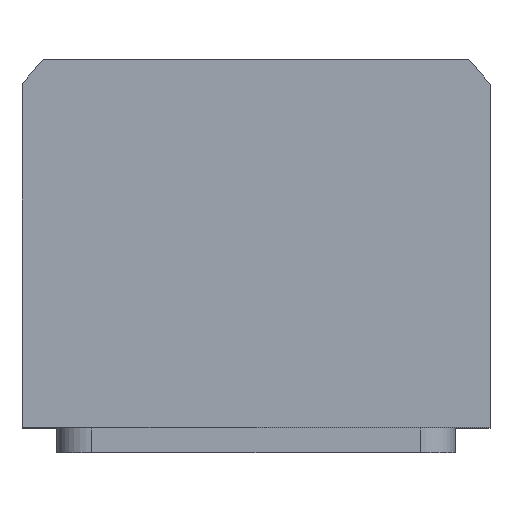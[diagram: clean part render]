
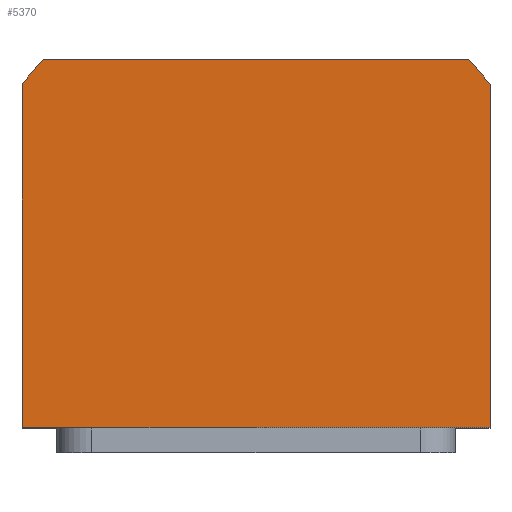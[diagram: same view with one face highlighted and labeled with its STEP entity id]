
A CAD part, top view. The second image highlights one B-rep face of the part: STEP entity #5370.
In plain terms, the highlighted planar face has unit normal (0, 0, 1).
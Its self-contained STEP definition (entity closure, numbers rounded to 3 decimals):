
#2588=PLANE('',#11889);
#2919=FACE_OUTER_BOUND('',#6140,.T.);
#3310=LINE('',#16610,#4198);
#3329=LINE('',#17261,#4217);
#3350=LINE('',#17338,#4238);
#3355=LINE('',#17352,#4243);
#4198=VECTOR('',#12339,1.);
#4217=VECTOR('',#12442,1.);
#4238=VECTOR('',#12505,1.);
#4243=VECTOR('',#12520,1.);
#5370=ADVANCED_FACE('',(#2919),#2588,.T.);
#5842=CIRCLE('',#11878,58.5);
#5848=CIRCLE('',#11886,58.5);
#6140=EDGE_LOOP('',(#6904,#6905,#6906,#6907,#6908,#6909));
#6904=ORIENTED_EDGE('',*,*,#10344,.T.);
#6905=ORIENTED_EDGE('',*,*,#10261,.T.);
#6906=ORIENTED_EDGE('',*,*,#10367,.T.);
#6907=ORIENTED_EDGE('',*,*,#10379,.T.);
#6908=ORIENTED_EDGE('',*,*,#10385,.T.);
#6909=ORIENTED_EDGE('',*,*,#10387,.T.);
#9296=VERTEX_POINT('',#16580);
#9311=VERTEX_POINT('',#16609);
#9386=VERTEX_POINT('',#17257);
#9404=VERTEX_POINT('',#17316);
#9412=VERTEX_POINT('',#17337);
#9416=VERTEX_POINT('',#17348);
#10261=EDGE_CURVE('',#9296,#9311,#3310,.T.);
#10344=EDGE_CURVE('',#9386,#9296,#3329,.T.);
#10367=EDGE_CURVE('',#9311,#9404,#5842,.T.);
#10379=EDGE_CURVE('',#9404,#9412,#3350,.T.);
#10385=EDGE_CURVE('',#9412,#9416,#5848,.T.);
#10387=EDGE_CURVE('',#9416,#9386,#3355,.T.);
#11878=AXIS2_PLACEMENT_3D('',#17317,#12487,#12488);
#11886=AXIS2_PLACEMENT_3D('',#17349,#12515,#12516);
#11889=AXIS2_PLACEMENT_3D('',#17365,#12530,#12531);
#12339=DIRECTION('',(0.,1.,0.));
#12442=DIRECTION('',(1.,0.,0.));
#12487=DIRECTION('',(0.,0.,1.));
#12488=DIRECTION('',(1.,0.,0.));
#12505=DIRECTION('',(-1.,0.,0.));
#12515=DIRECTION('',(0.,0.,1.));
#12516=DIRECTION('',(1.,0.,0.));
#12520=DIRECTION('',(0.,-1.,0.));
#12530=DIRECTION('',(0.,0.,1.));
#12531=DIRECTION('',(-1.,0.,0.));
#16580=CARTESIAN_POINT('',(47.,-34.,55.));
#16609=CARTESIAN_POINT('',(47.,34.832,55.));
#16610=CARTESIAN_POINT('',(47.,34.832,55.));
#17257=CARTESIAN_POINT('',(-47.,-34.,55.));
#17261=CARTESIAN_POINT('',(47.,-34.,55.));
#17316=CARTESIAN_POINT('',(42.688,40.,55.));
#17317=CARTESIAN_POINT('',(0.,0.,55.));
#17337=CARTESIAN_POINT('',(-42.688,40.,55.));
#17338=CARTESIAN_POINT('',(-42.688,40.,55.));
#17348=CARTESIAN_POINT('',(-47.,34.832,55.));
#17349=CARTESIAN_POINT('',(0.,0.,55.));
#17352=CARTESIAN_POINT('',(-47.,-34.,55.));
#17365=CARTESIAN_POINT('',(0.,0.,55.));
